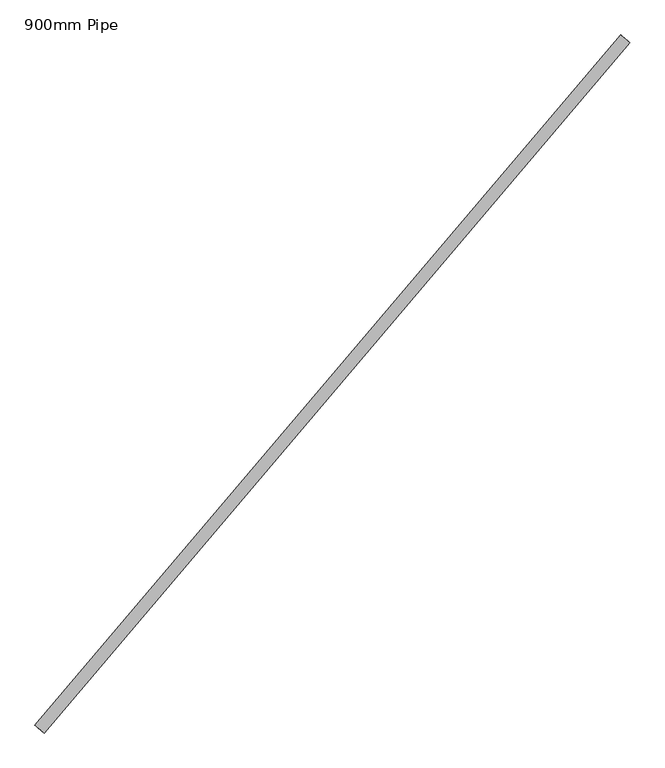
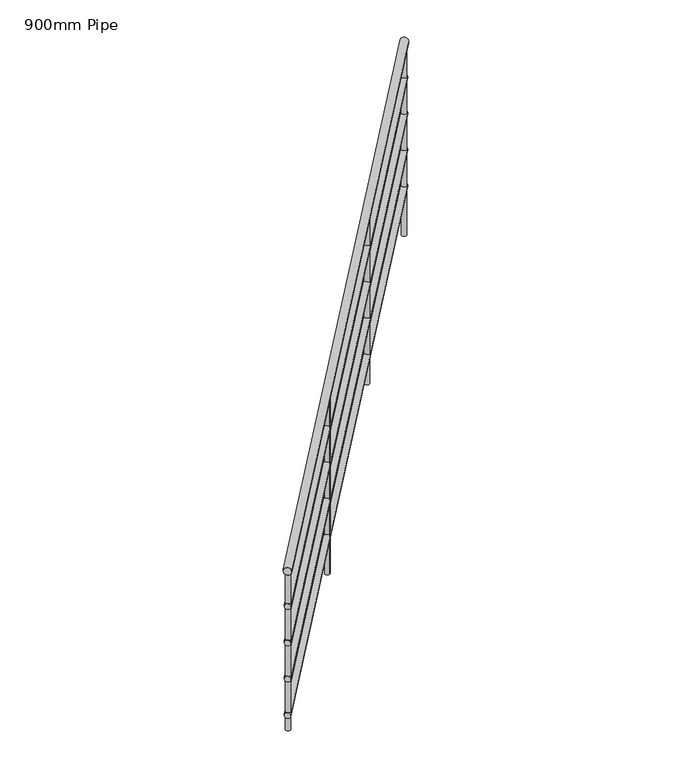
"""IFC4 building model written with IfcOpenShell, lengths in millimetres: railing geometry, 900mm Pipe."""

from ifc_helpers import new_model, si_unit, frame, origin, place, context, project, spatial, circle_curve, ellipse_curve, source, transform, mapped, element, save
from ifc_brep_helpers import plane_surface, cylinder_surface, advanced_brep


def railing_900mm_pipe_7b3382e1(model_context):
    return source(origin(), model_context, "Body", "AdvancedBrep", [
        advanced_brep(
        [(899419.7397879, 8348.4614993, 6058.386247), (899450.227298, 8322.5672581, 6058.386247), (901324.2960953, 10590.8589231, 6954.8568352), (901354.7836054, 10564.9646819, 6954.8568352)],
        [
            (0, 1, ellipse_curve(frame((899434.983543, 8335.5143787, 6058.386247), z_axis=(-0.6473560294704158, -0.7621877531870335, 0.0), x_axis=(0.0, 0.0, -1.0)), 20.9078706, 20.0)),
            (1, 0, ellipse_curve(frame((899434.983543, 8335.5143787, 6058.386247), z_axis=(-0.6473560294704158, -0.7621877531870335, 0.0), x_axis=(0.0, 0.0, -1.0)), 20.9078706, 20.0)),
            (2, 3, ellipse_curve(frame((901339.5398504, 10577.9118025, 6954.8568352), z_axis=(0.6473560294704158, 0.7621877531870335, 0.0), x_axis=(0.0, 0.0, -1.0)), 20.9078706, 20.0)),
            (3, 2, ellipse_curve(frame((901339.5398504, 10577.9118025, 6954.8568352), z_axis=(0.6473560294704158, 0.7621877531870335, 0.0), x_axis=(0.0, 0.0, -1.0)), 20.9078706, 20.0)),
            (0, 2),
            (3, 1),
        ],
        [
            plane_surface(frame((899434.983543, 8335.5143787, 6079.2941176), z_axis=(-0.6473560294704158, -0.7621877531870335, 0.0), x_axis=(0.7621877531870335, -0.6473560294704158, 0.0))),
            plane_surface(frame((901339.5398504, 10577.9118025, 6975.7647059), z_axis=(0.6473560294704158, 0.7621877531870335, 0.0), x_axis=(0.7621877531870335, -0.6473560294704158, 0.0))),
            cylinder_surface(frame((899438.7573424, 8339.9575963, 6060.1625663), z_axis=(-0.6192462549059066, -0.7290917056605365, -0.291477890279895), x_axis=(0.7621877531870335, -0.6473560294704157, 0.0)), 20.0),
        ],
        [
            (0, [[1, 2]]),
            (1, [[3, 4]]),
            (2, [[-1, 5, -4, 6]]),
            (2, [[-2, -6, -3, -5]]),
        ],
    ),
        advanced_brep(
        [(899423.5507267, 8345.2247192, 5863.6132147), (899446.4163593, 8325.8040383, 5863.6132147), (901328.1070341, 10587.622143, 6760.0838029), (901350.9726666, 10568.2014621, 6760.0838029)],
        [
            (0, 1, ellipse_curve(frame((899434.983543, 8335.5143787, 5863.6132147), z_axis=(-0.6473560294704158, -0.7621877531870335, 0.0), x_axis=(0.0, 0.0, -1.0)), 15.680903, 15.0)),
            (1, 0, ellipse_curve(frame((899434.983543, 8335.5143787, 5863.6132147), z_axis=(-0.6473560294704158, -0.7621877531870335, 0.0), x_axis=(0.0, 0.0, -1.0)), 15.680903, 15.0)),
            (2, 3, ellipse_curve(frame((901339.5398504, 10577.9118025, 6760.0838029), z_axis=(0.6473560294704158, 0.7621877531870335, 0.0), x_axis=(0.0, 0.0, -1.0)), 15.680903, 15.0)),
            (3, 2, ellipse_curve(frame((901339.5398504, 10577.9118025, 6760.0838029), z_axis=(0.6473560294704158, 0.7621877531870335, 0.0), x_axis=(0.0, 0.0, -1.0)), 15.680903, 15.0)),
            (0, 2),
            (3, 1),
        ],
        [
            plane_surface(frame((899434.983543, 8335.5143787, 5879.2941176), z_axis=(-0.6473560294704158, -0.7621877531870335, 0.0), x_axis=(0.7621877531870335, -0.6473560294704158, 0.0))),
            plane_surface(frame((901339.5398504, 10577.9118025, 6775.7647059), z_axis=(0.6473560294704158, 0.7621877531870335, 0.0), x_axis=(0.7621877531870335, -0.6473560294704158, 0.0))),
            cylinder_surface(frame((899437.8138925, 8338.8467919, 5864.9454542), z_axis=(-0.6192462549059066, -0.7290917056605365, -0.291477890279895), x_axis=(0.7621877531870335, -0.6473560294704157, 0.0)), 15.0),
        ],
        [
            (0, [[1, 2]]),
            (1, [[3, 4]]),
            (2, [[-1, 5, -4, 6]]),
            (2, [[-2, -6, -3, -5]]),
        ],
    ),
        advanced_brep(
        [(899423.5507267, 8345.2247192, 5663.6132147), (899446.4163593, 8325.8040383, 5663.6132147), (901328.1070341, 10587.622143, 6560.0838029), (901350.9726666, 10568.2014621, 6560.0838029)],
        [
            (0, 1, ellipse_curve(frame((899434.983543, 8335.5143787, 5663.6132147), z_axis=(-0.6473560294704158, -0.7621877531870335, 0.0), x_axis=(0.0, 0.0, -1.0)), 15.680903, 15.0)),
            (1, 0, ellipse_curve(frame((899434.983543, 8335.5143787, 5663.6132147), z_axis=(-0.6473560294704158, -0.7621877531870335, 0.0), x_axis=(0.0, 0.0, -1.0)), 15.680903, 15.0)),
            (2, 3, ellipse_curve(frame((901339.5398504, 10577.9118025, 6560.0838029), z_axis=(0.6473560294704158, 0.7621877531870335, 0.0), x_axis=(0.0, 0.0, -1.0)), 15.680903, 15.0)),
            (3, 2, ellipse_curve(frame((901339.5398504, 10577.9118025, 6560.0838029), z_axis=(0.6473560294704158, 0.7621877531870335, 0.0), x_axis=(0.0, 0.0, -1.0)), 15.680903, 15.0)),
            (0, 2),
            (3, 1),
        ],
        [
            plane_surface(frame((899434.983543, 8335.5143787, 5679.2941176), z_axis=(-0.6473560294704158, -0.7621877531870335, 0.0), x_axis=(0.7621877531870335, -0.6473560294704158, 0.0))),
            plane_surface(frame((901339.5398504, 10577.9118025, 6575.7647059), z_axis=(0.6473560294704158, 0.7621877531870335, 0.0), x_axis=(0.7621877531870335, -0.6473560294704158, 0.0))),
            cylinder_surface(frame((899437.8138925, 8338.8467919, 5664.9454542), z_axis=(-0.6192462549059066, -0.7290917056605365, -0.291477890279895), x_axis=(0.7621877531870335, -0.6473560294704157, 0.0)), 15.0),
        ],
        [
            (0, [[1, 2]]),
            (1, [[3, 4]]),
            (2, [[-1, 5, -4, 6]]),
            (2, [[-2, -6, -3, -5]]),
        ],
    ),
        advanced_brep(
        [(899423.5507267, 8345.2247192, 5463.6132147), (899446.4163593, 8325.8040383, 5463.6132147), (901328.1070341, 10587.622143, 6360.0838029), (901350.9726666, 10568.2014621, 6360.0838029)],
        [
            (0, 1, ellipse_curve(frame((899434.983543, 8335.5143787, 5463.6132147), z_axis=(-0.6473560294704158, -0.7621877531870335, 0.0), x_axis=(0.0, 0.0, -1.0)), 15.680903, 15.0)),
            (1, 0, ellipse_curve(frame((899434.983543, 8335.5143787, 5463.6132147), z_axis=(-0.6473560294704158, -0.7621877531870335, 0.0), x_axis=(0.0, 0.0, -1.0)), 15.680903, 15.0)),
            (2, 3, ellipse_curve(frame((901339.5398504, 10577.9118025, 6360.0838029), z_axis=(0.6473560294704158, 0.7621877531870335, 0.0), x_axis=(0.0, 0.0, -1.0)), 15.680903, 15.0)),
            (3, 2, ellipse_curve(frame((901339.5398504, 10577.9118025, 6360.0838029), z_axis=(0.6473560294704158, 0.7621877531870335, 0.0), x_axis=(0.0, 0.0, -1.0)), 15.680903, 15.0)),
            (0, 2),
            (3, 1),
        ],
        [
            plane_surface(frame((899434.983543, 8335.5143787, 5479.2941176), z_axis=(-0.6473560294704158, -0.7621877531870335, 0.0), x_axis=(0.7621877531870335, -0.6473560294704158, 0.0))),
            plane_surface(frame((901339.5398504, 10577.9118025, 6375.7647059), z_axis=(0.6473560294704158, 0.7621877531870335, 0.0), x_axis=(0.7621877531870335, -0.6473560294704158, 0.0))),
            cylinder_surface(frame((899437.8138925, 8338.8467919, 5464.9454542), z_axis=(-0.6192462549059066, -0.7290917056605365, -0.291477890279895), x_axis=(0.7621877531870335, -0.6473560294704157, 0.0)), 15.0),
        ],
        [
            (0, [[1, 2]]),
            (1, [[3, 4]]),
            (2, [[-1, 5, -4, 6]]),
            (2, [[-2, -6, -3, -5]]),
        ],
    ),
        advanced_brep(
        [(899423.5507267, 8345.2247192, 5263.6132147), (899446.4163593, 8325.8040383, 5263.6132147), (901328.1070341, 10587.622143, 6160.0838029), (901350.9726666, 10568.2014621, 6160.0838029)],
        [
            (0, 1, ellipse_curve(frame((899434.983543, 8335.5143787, 5263.6132147), z_axis=(-0.6473560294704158, -0.7621877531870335, 0.0), x_axis=(0.0, 0.0, -1.0)), 15.680903, 15.0)),
            (1, 0, ellipse_curve(frame((899434.983543, 8335.5143787, 5263.6132147), z_axis=(-0.6473560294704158, -0.7621877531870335, 0.0), x_axis=(0.0, 0.0, -1.0)), 15.680903, 15.0)),
            (2, 3, ellipse_curve(frame((901339.5398504, 10577.9118025, 6160.0838029), z_axis=(0.6473560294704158, 0.7621877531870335, 0.0), x_axis=(0.0, 0.0, -1.0)), 15.680903, 15.0)),
            (3, 2, ellipse_curve(frame((901339.5398504, 10577.9118025, 6160.0838029), z_axis=(0.6473560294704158, 0.7621877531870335, 0.0), x_axis=(0.0, 0.0, -1.0)), 15.680903, 15.0)),
            (0, 2),
            (3, 1),
        ],
        [
            plane_surface(frame((899434.983543, 8335.5143787, 5279.2941176), z_axis=(-0.6473560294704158, -0.7621877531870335, 0.0), x_axis=(0.7621877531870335, -0.6473560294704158, 0.0))),
            plane_surface(frame((901339.5398504, 10577.9118025, 6175.7647059), z_axis=(0.6473560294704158, 0.7621877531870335, 0.0), x_axis=(0.7621877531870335, -0.6473560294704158, 0.0))),
            cylinder_surface(frame((899437.8138925, 8338.8467919, 5264.9454542), z_axis=(-0.6192462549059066, -0.7290917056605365, -0.291477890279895), x_axis=(0.7621877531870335, -0.6473560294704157, 0.0)), 15.0),
        ],
        [
            (0, [[1, 2]]),
            (1, [[3, 4]]),
            (2, [[-1, 5, -4, 6]]),
            (2, [[-2, -6, -3, -5]]),
        ],
    ),
        advanced_brep(
        [(900739.2229488, 9851.7979347, 6646.8965794), (900739.2229488, 9851.7979347, 5717.1764706), (900720.168255, 9867.9818355, 5717.1764706), (900720.168255, 9867.9818355, 6646.8965794)],
        [
            (0, 1),
            (1, 2, circle_curve(frame((900729.6956019, 9859.8898851, 5717.1764706), z_axis=(0.0, 0.0, 1.0), x_axis=(-0.7621877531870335, 0.6473560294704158, 0.0)), 12.5)),
            (2, 3),
            (3, 0, ellipse_curve(frame((900729.6956019, 9859.8898851, 6646.8965794), z_axis=(0.18868996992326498, 0.2221608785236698, -0.9565775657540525), x_axis=(0.619246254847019, 0.7290917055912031, 0.2914778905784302)), 13.0674191, 12.5)),
            (0, 3, ellipse_curve(frame((900729.6956019, 9859.8898851, 6646.8965794), z_axis=(0.18868996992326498, 0.2221608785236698, -0.9565775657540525), x_axis=(0.619246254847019, 0.7290917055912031, 0.2914778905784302)), 13.0674191, 12.5)),
            (2, 1, circle_curve(frame((900729.6956019, 9859.8898851, 5717.1764706), z_axis=(0.0, 0.0, 1.0), x_axis=(-0.7621877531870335, 0.6473560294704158, 0.0)), 12.5)),
        ],
        [
            cylinder_surface(frame((900729.6956019, 9859.8898851, 5617.1764706), z_axis=(0.0, 0.0, 1.0), x_axis=(-0.7621877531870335, 0.6473560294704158, 0.0)), 12.5),
            plane_surface(frame((900726.8248088, 9895.1284797, 6654.5143069), z_axis=(-0.18868996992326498, -0.2221608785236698, 0.9565775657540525), x_axis=(0.7621877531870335, -0.6473560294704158, 0.0))),
            plane_surface(frame((900694.4570073, 9857.019092, 5717.1764706), z_axis=(0.0, 0.0, -1.0), x_axis=(0.7621877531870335, -0.6473560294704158, 0.0))),
        ],
        [
            (0, [[1, 2, 3, 4]]),
            (0, [[-1, 5, -3, 6]]),
            (1, [[-4, -5]]),
            (2, [[-2, -6]]),
        ],
    ),
        advanced_brep(
        [(900091.8669193, 9089.6101816, 6342.1874779), (900091.8669193, 9089.6101816, 5358.5882353), (900072.8122255, 9105.7940823, 5358.5882353), (900072.8122255, 9105.7940823, 6342.1874779)],
        [
            (0, 1),
            (1, 2, circle_curve(frame((900082.3395724, 9097.7021319, 5358.5882353), z_axis=(0.0, 0.0, 1.0), x_axis=(-0.7621877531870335, 0.6473560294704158, 0.0)), 12.5)),
            (2, 3),
            (3, 0, ellipse_curve(frame((900082.3395724, 9097.7021319, 6342.1874779), z_axis=(0.18868996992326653, 0.2221608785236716, -0.9565775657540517), x_axis=(0.6192462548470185, 0.7290917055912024, 0.29147789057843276)), 13.0674191, 12.5)),
            (0, 3, ellipse_curve(frame((900082.3395724, 9097.7021319, 6342.1874779), z_axis=(0.18868996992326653, 0.2221608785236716, -0.9565775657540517), x_axis=(0.6192462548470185, 0.7290917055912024, 0.29147789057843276)), 13.0674191, 12.5)),
            (2, 1, circle_curve(frame((900082.3395724, 9097.7021319, 5358.5882353), z_axis=(0.0, 0.0, 1.0), x_axis=(-0.7621877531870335, 0.6473560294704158, 0.0)), 12.5)),
        ],
        [
            cylinder_surface(frame((900082.3395724, 9097.7021319, 5258.5882353), z_axis=(0.0, 0.0, 1.0), x_axis=(-0.7621877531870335, 0.6473560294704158, 0.0)), 12.5),
            plane_surface(frame((900079.4687793, 9132.9407265, 6349.8052054), z_axis=(-0.18868996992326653, -0.2221608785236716, 0.9565775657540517), x_axis=(0.7621877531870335, -0.6473560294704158, 0.0))),
            plane_surface(frame((900047.1009779, 9094.8313388, 5358.5882353), z_axis=(0.0, 0.0, -1.0), x_axis=(0.7621877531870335, -0.6473560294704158, 0.0))),
        ],
        [
            (0, [[1, 2, 3, 4]]),
            (0, [[-1, 5, -3, 6]]),
            (1, [[-4, -5]]),
            (2, [[-2, -6]]),
        ],
    ),
        advanced_brep(
        [(901340.9752469, 10560.2925052, 6930.1401008), (901340.9752469, 10560.2925052, 5896.4705882), (901321.9205531, 10576.476406, 5896.4705882), (901321.9205531, 10576.476406, 6930.1401008)],
        [
            (0, 1),
            (1, 2, circle_curve(frame((901331.4479, 10568.3844556, 5896.4705882), z_axis=(0.0, 0.0, 1.0), x_axis=(-0.7621877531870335, 0.6473560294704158, 0.0)), 12.5)),
            (2, 3),
            (3, 0, ellipse_curve(frame((901331.4479, 10568.3844556, 6930.1401008), z_axis=(0.18868996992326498, 0.2221608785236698, -0.9565775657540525), x_axis=(0.619246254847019, 0.7290917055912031, 0.2914778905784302)), 13.0674191, 12.5)),
            (0, 3, ellipse_curve(frame((901331.4479, 10568.3844556, 6930.1401008), z_axis=(0.18868996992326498, 0.2221608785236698, -0.9565775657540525), x_axis=(0.619246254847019, 0.7290917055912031, 0.2914778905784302)), 13.0674191, 12.5)),
            (2, 1, circle_curve(frame((901331.4479, 10568.3844556, 5896.4705882), z_axis=(0.0, 0.0, 1.0), x_axis=(-0.7621877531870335, 0.6473560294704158, 0.0)), 12.5)),
        ],
        [
            cylinder_surface(frame((901331.4479, 10568.3844556, 5796.4705882), z_axis=(0.0, 0.0, 1.0), x_axis=(-0.7621877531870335, 0.6473560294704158, 0.0)), 12.5),
            plane_surface(frame((901328.5771069, 10603.6230502, 6937.7578284), z_axis=(-0.18868996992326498, -0.2221608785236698, 0.9565775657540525), x_axis=(0.7621877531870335, -0.6473560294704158, 0.0))),
            plane_surface(frame((901296.2093054, 10565.5136625, 5896.4705882), z_axis=(0.0, 0.0, -1.0), x_axis=(0.7621877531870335, -0.6473560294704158, 0.0))),
        ],
        [
            (0, [[1, 2, 3, 4]]),
            (0, [[-1, 5, -3, 6]]),
            (1, [[-4, -5]]),
            (2, [[-2, -6]]),
        ],
    ),
        advanced_brep(
        [(899452.6028402, 8336.9497753, 6041.2872401), (899452.6028402, 8336.9497753, 5179.2941176), (899433.5481464, 8353.133676, 5179.2941176), (899433.5481464, 8353.133676, 6041.2872401)],
        [
            (0, 1),
            (1, 2, circle_curve(frame((899443.0754933, 8345.0417256, 5179.2941176), z_axis=(0.0, 0.0, 1.0), x_axis=(-0.7621877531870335, 0.6473560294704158, 0.0)), 12.5)),
            (2, 3),
            (3, 0, ellipse_curve(frame((899443.0754933, 8345.0417256, 6041.2872401), z_axis=(0.18868996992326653, 0.2221608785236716, -0.9565775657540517), x_axis=(0.6192462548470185, 0.7290917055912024, 0.29147789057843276)), 13.0674191, 12.5)),
            (0, 3, ellipse_curve(frame((899443.0754933, 8345.0417256, 6041.2872401), z_axis=(0.18868996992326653, 0.2221608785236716, -0.9565775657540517), x_axis=(0.6192462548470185, 0.7290917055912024, 0.29147789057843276)), 13.0674191, 12.5)),
            (2, 1, circle_curve(frame((899443.0754933, 8345.0417256, 5179.2941176), z_axis=(0.0, 0.0, 1.0), x_axis=(-0.7621877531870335, 0.6473560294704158, 0.0)), 12.5)),
        ],
        [
            cylinder_surface(frame((899443.0754933, 8345.0417256, 5079.2941176), z_axis=(0.0, 0.0, 1.0), x_axis=(-0.7621877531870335, 0.6473560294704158, 0.0)), 12.5),
            plane_surface(frame((899440.2047002, 8380.2803202, 6048.9049677), z_axis=(-0.18868996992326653, -0.2221608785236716, 0.9565775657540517), x_axis=(0.7621877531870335, -0.6473560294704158, 0.0))),
            plane_surface(frame((899407.8368988, 8342.1709326, 5179.2941176), z_axis=(0.0, 0.0, -1.0), x_axis=(0.7621877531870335, -0.6473560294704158, 0.0))),
        ],
        [
            (0, [[1, 2, 3, 4]]),
            (0, [[-1, 5, -3, 6]]),
            (1, [[-4, -5]]),
            (2, [[-2, -6]]),
        ],
    ),
    ])


if __name__ == "__main__":
    model = new_model("IFC4")
    model_context = context("Model", 3, world=origin())
    ifc_project = project(units=[si_unit("LENGTHUNIT", "METRE", prefix="MILLI")], contexts=[model_context])
    site = spatial("IfcSite", under=ifc_project)
    building = spatial("IfcBuilding", under=site)
    placement = place(None, origin())
    railing_900mm_pipe_shape = railing_900mm_pipe_7b3382e1(model_context)
    element("IfcRailing", 1, ObjectType="900mm Pipe", at=placement, inside=building, context=model_context, shape_type="MappedRepresentation", body=[
        mapped(railing_900mm_pipe_shape, transform((0.0, 0.0, 0.0), x_axis=(1.0, 0.0, 0.0), y_axis=(0.0, 1.0, 0.0), z_axis=(0.0, 0.0, 1.0))),
    ])
    save(model, "model.ifc")
